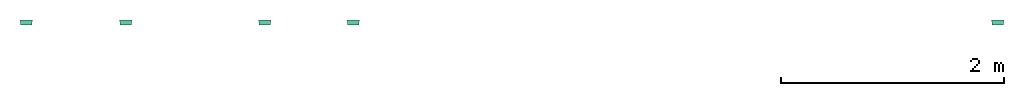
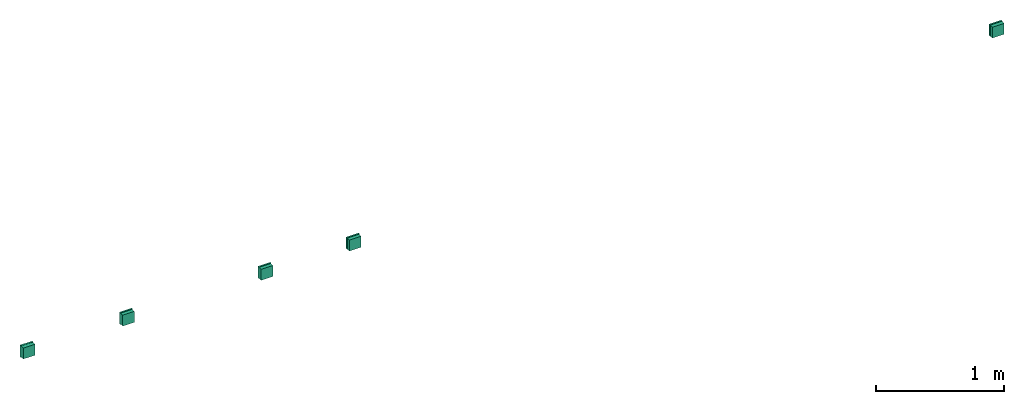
# One storey: 5 flow fittings.
"""IFC2X3 building model written with IfcOpenShell, lengths in millimetres."""

from ifc_helpers import new_model, entity, si_unit, converted_unit, derived_unit, direction, frame, origin_with_axes, place, context, subcontext, project, spatial, open_shell, surface_model, source, transform, mapped, type_object, element, save


model = new_model("IFC2X3")

# Units and contexts
model_context = context("Model", 3, precision=0.01, world=frame((0.0, 4.29681676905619e-09, 0.0)), true_north=direction((4.01073788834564e-13, 1.0)))
plan_context = context("Plan", 3, precision=0.01, world=frame((0.0, 4.29681676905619e-09, 0.0)), true_north=direction((4.01073788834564e-13, 1.0)))
body_context = subcontext(model_context, "Body", "Model", "MODEL_VIEW")
ifc_project = project(units=[converted_unit("PLANEANGLEUNIT", "DEGREE", entity("IfcPositiveLengthMeasure", 0.0174532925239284), si_unit("PLANEANGLEUNIT", "RADIAN"), dimensions=[0, 0, 0, 0, 0, 0, 0]), si_unit("AREAUNIT", "SQUARE_METRE"), si_unit("LENGTHUNIT", "METRE", prefix="MILLI"), si_unit("MASSUNIT", "GRAM", prefix="KILO"), si_unit("POWERUNIT", "WATT"), si_unit("PRESSUREUNIT", "PASCAL", prefix="KILO"), si_unit("FORCEUNIT", "NEWTON", prefix="KILO"), si_unit("ELECTRICVOLTAGEUNIT", "VOLT"), si_unit("ELECTRICCURRENTUNIT", "AMPERE"), si_unit("THERMODYNAMICTEMPERATUREUNIT", "DEGREE_CELSIUS"), si_unit("TIMEUNIT", "SECOND"), si_unit("VOLUMEUNIT", "CUBIC_METRE"), derived_unit("LINEARVELOCITYUNIT", [(si_unit("LENGTHUNIT", "METRE"), 1), (si_unit("TIMEUNIT", "SECOND"), -1)]), derived_unit("VOLUMETRICFLOWRATEUNIT", [(si_unit("VOLUMEUNIT", "CUBIC_METRE"), 1), (si_unit("TIMEUNIT", "SECOND"), -1)]), derived_unit("THERMALTRANSMITTANCEUNIT", [(si_unit("POWERUNIT", "WATT"), 1), (si_unit("THERMODYNAMICTEMPERATUREUNIT", "KELVIN"), -1), (si_unit("AREAUNIT", "SQUARE_METRE"), -1)]), derived_unit("SOUNDPRESSUREUNIT", [(si_unit("PRESSUREUNIT", "PASCAL"), 1)])], contexts=[model_context, plan_context])

# Site, building, storey
site_placement = place(None, frame((0.0, -4.29681676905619e-09, 0.0), z_axis=(0.0, 0.0, 1.0), x_axis=(1.0, 0.0, 0.0)))
site = spatial("IfcSite", under=ifc_project, at=site_placement, Name="ENGM", CompositionType="ELEMENT")
building_placement = place(site_placement, frame((0.0, 4.29681676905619e-09, 0.0), z_axis=(0.0, 0.0, 1.0), x_axis=(1.0, 0.0, 0.0)))
building = spatial("IfcBuilding", under=site, at=building_placement, Name="TI", CompositionType="ELEMENT")
storey_placement = place(building_placement, frame((0.0, 0.0, 205200.0), z_axis=(0.0, 0.0, 1.0), x_axis=(1.0, 0.0, 0.0)))
storey = spatial("IfcBuildingStorey", under=building, at=storey_placement, Name="Nivå D + 1,2 m", CompositionType="ELEMENT", Elevation=205200.0)

# Flow fittings
junction_box_type = type_object("IfcJunctionBoxType", Name="Koblingsboks åpen", PredefinedType="NOTDEFINED")
shared_shape = source(origin_with_axes(), body_context, "Body", "SurfaceModel", [
    surface_model("IfcShellBasedSurfaceModel", [(-55.0, 46.0, 55.0), (-55.0, 32.2, 55.0), (55.0, 32.2, 55.0), (55.0, 46.0, 55.0), (55.0, 46.0, -55.0), (55.0, 32.2, -55.0), (-55.0, 32.2, -55.0), (-55.0, 46.0, -55.0), (-52.0, 32.2, 52.0), (-52.0, 0.0, 52.0), (52.0, 0.0, 52.0), (52.0, 32.2, 52.0), (52.0, 32.2, -52.0), (52.0, 0.0, -52.0), (-52.0, 0.0, -52.0), (-52.0, 32.2, -52.0)], [open_shell([[[0, 1, 2]], [[2, 3, 0]], [[4, 5, 6]], [[6, 7, 4]], [[2, 1, 6]], [[6, 5, 2]], [[3, 2, 5]], [[5, 4, 3]], [[0, 3, 4]], [[4, 7, 0]], [[1, 0, 7]], [[7, 6, 1]], [[8, 9, 10]], [[10, 11, 8]], [[12, 13, 14]], [[14, 15, 12]], [[10, 9, 14]], [[14, 13, 10]], [[11, 10, 13]], [[13, 12, 11]], [[8, 11, 12]], [[12, 15, 8]], [[9, 8, 15]], [[15, 14, 9]]])]),
])
for number, where, z_axis, x_axis in (
    (1, (599166.54047, 570162.73621, 4965.0), (0.0, 0.0, 1.0), (1.0, 0.0, 0.0)),
    (2, (592590.20965, 570162.73621, 4965.0), (0.0, 0.0, 1.0), (1.0, 0.0, 0.0)),
    (3, (590450.20965, 570162.73621, 4965.0), (0.0, 0.0, 1.0), (1.0, 0.0, 0.0)),
    (4, (591344.34509, 570162.73621, 4965.0), (0.0, 0.0, 1.0), (1.0, 0.0, 0.0)),
    (5, (593384.34509, 570162.73621, 4965.0), (0.0, 0.0, 1.0), (1.0, 0.0, 0.0)),
):
    element("IfcFlowFitting", number, at=place(storey_placement, frame(where, z_axis=z_axis, x_axis=x_axis)), inside=storey, type_object=junction_box_type, Name="Koblingsboks åpen", context=body_context, shape_type="MappedRepresentation", body=[
        mapped(shared_shape, transform((0.0, 0.0, 0.0), scale=1.0)),
    ])

save(model, "model.ifc")
